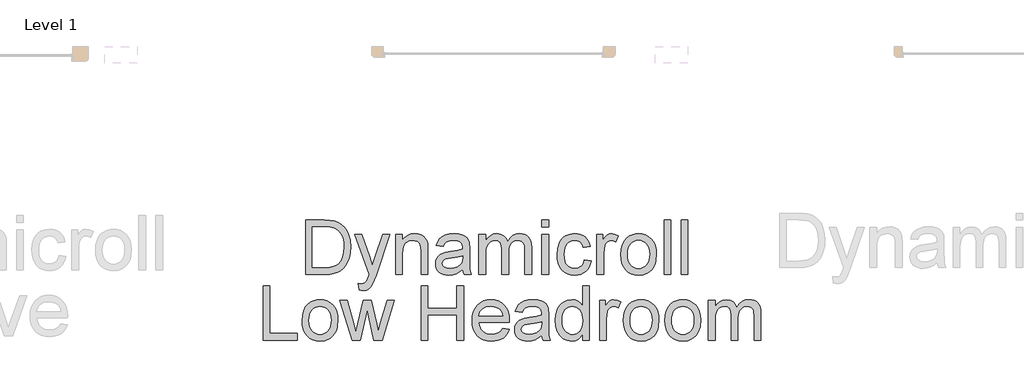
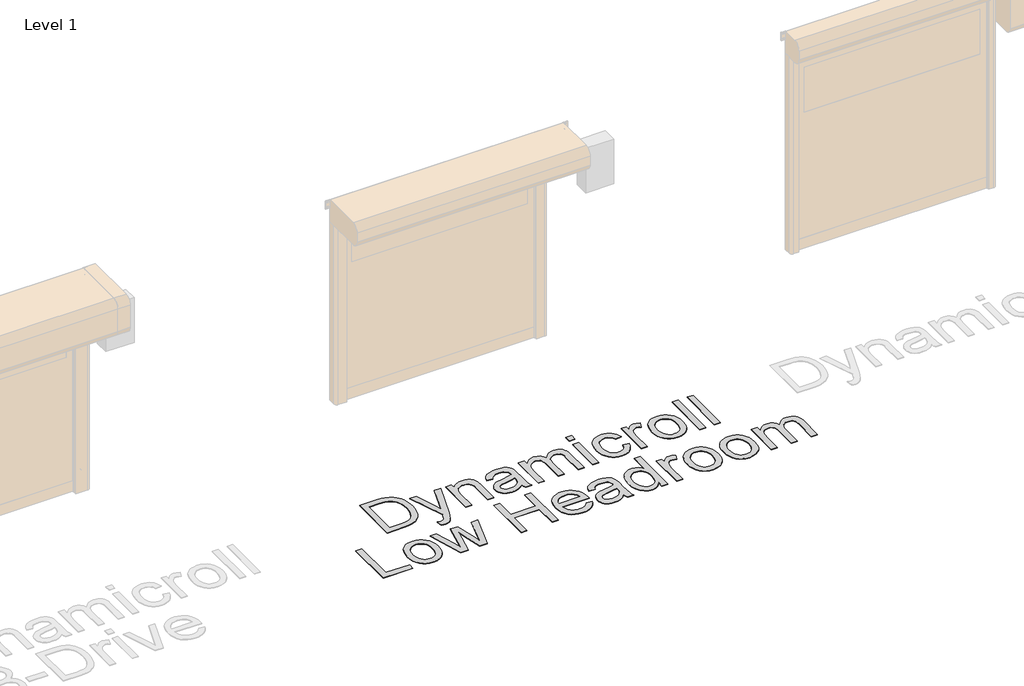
# One storey, part 9 of 20: 1 proxy.
"""IFC4 building model written with IfcOpenShell, lengths in millimetres."""

import ifcopenshell
import ifcopenshell.guid

model = None  # the IFC model being written
_history = None  # IfcOwnerHistory: only IFC2X3 demands one
_inside = {}  # id of a spatial element -> (the spatial element, [elements in it])
_under = {}  # id of a project, library or spatial element -> (it, [spatial elements below it])
_declared = {}  # id of a project -> (the project, [libraries it declares])
_typed = {}  # id of a type object -> (the type object, [elements of that type])
_made_of = {}  # id of a material, layer set ... -> (it, [elements and type objects made of it])


def new_model(schema):
    """Start an empty IFC model of exactly this schema.

    Asked for "IFC4X3", IfcOpenShell would pick the latest addendum, in which some entities
    have other attributes; the version numbers below select the first issue.
    IFC2X3 requires an IfcOwnerHistory on every rooted entity: one is made here for all.
    """
    global model, _history
    if schema == "IFC4X3":
        model = ifcopenshell.file(schema_version=(4, 3, 0, 0))
    else:
        model = ifcopenshell.file(schema=schema)
    _inside.clear()
    _under.clear()
    _declared.clear()
    _typed.clear()
    _made_of.clear()
    _history = None
    if model.schema == "IFC2X3":
        org = make("IfcOrganization", Name="unknown")
        user = make(
            "IfcPersonAndOrganization",
            ThePerson=make("IfcPerson", FamilyName="unknown"),
            TheOrganization=org,
        )
        app = make(
            "IfcApplication",
            ApplicationDeveloper=org,
            Version="unknown",
            ApplicationFullName="unknown",
            ApplicationIdentifier="unknown",
        )
        _history = make(
            "IfcOwnerHistory",
            OwningUser=user,
            OwningApplication=app,
            ChangeAction="ADDED",
            CreationDate=0,
        )
    return model


def make(cls, **values):
    """One entity of the class cls with the attributes given. An attribute that is None is left unset."""
    return model.create_entity(
        cls, **{name: value for name, value in values.items() if value is not None}
    )


def rooted(cls, **values):
    """An entity with a GlobalId (a new one), such as an element, a storey or a relation."""
    return make(cls, GlobalId=ifcopenshell.guid.new(), OwnerHistory=_history, **values)


def si_unit(unit_type, name, prefix=None):
    """IfcSIUnit, for example si_unit("LENGTHUNIT", "METRE", prefix="MILLI")."""
    return make("IfcSIUnit", UnitType=unit_type, Prefix=prefix, Name=name)


def assignment(units):
    """IfcUnitAssignment: the units of a project."""
    return None if units is None else make("IfcUnitAssignment", Units=units)


def point(xyz):
    """IfcCartesianPoint."""
    return None if xyz is None else make("IfcCartesianPoint", Coordinates=xyz)


def direction(xyz):
    """IfcDirection."""
    return None if xyz is None else make("IfcDirection", DirectionRatios=xyz)


def frame(location, z_axis=None, x_axis=None):
    """IfcAxis2Placement3D, a coordinate frame: its origin and axes. An axis left out is left unset."""
    return make(
        "IfcAxis2Placement3D",
        Location=point(location),
        Axis=direction(z_axis),
        RefDirection=direction(x_axis),
    )


def origin():
    """The frame at (0, 0, 0) with its axes left unset."""
    return frame((0.0, 0.0, 0.0))


def origin_with_axes():
    """The frame at (0, 0, 0) with the z axis (0, 0, 1) and the x axis (1, 0, 0) written out."""
    return frame((0.0, 0.0, 0.0), z_axis=(0.0, 0.0, 1.0), x_axis=(1.0, 0.0, 0.0))


def place(relative_to, where):
    """IfcLocalPlacement: puts the frame where relative to a parent placement (None: the world)."""
    return make(
        "IfcLocalPlacement", PlacementRelTo=relative_to, RelativePlacement=where
    )


def context(
    kind, dimensions, precision=None, world=None, true_north=None, identifier=None
):
    """IfcGeometricRepresentationContext, for example the 3D "Model" context."""
    return make(
        "IfcGeometricRepresentationContext",
        ContextIdentifier=identifier,
        ContextType=kind,
        CoordinateSpaceDimension=dimensions,
        Precision=precision,
        WorldCoordinateSystem=world,
        TrueNorth=true_north,
    )


def project(units=None, contexts=None):
    """IfcProject with its units and contexts."""
    return rooted(
        "IfcProject",
        Name="project",
        RepresentationContexts=contexts,
        UnitsInContext=assignment(units),
    )


def spatial(cls, under=None, at=None, **own):
    """A site, building, storey or space (cls), placed at a placement, below another one or the project."""
    s = rooted(cls, ObjectPlacement=at, **own)
    if under is not None:
        _under.setdefault(under.id(), (under, []))[1].append(s)
    return s


def polyline(points):
    """IfcPolyline through the points."""
    return make("IfcPolyline", Points=[point(p) for p in points])


def outline(outer, holes=None, kind="AREA"):
    """IfcArbitraryClosedProfileDef: a profile drawn as a closed curve; with holes, ...WithVoids."""
    if holes is None:
        return make("IfcArbitraryClosedProfileDef", ProfileType=kind, OuterCurve=outer)
    return make(
        "IfcArbitraryProfileDefWithVoids",
        ProfileType=kind,
        OuterCurve=outer,
        InnerCurves=holes,
    )


def extrude(swept, where, along, depth):
    """IfcExtrudedAreaSolid: the profile swept, set in the frame where, extruded along a direction by depth."""
    return make(
        "IfcExtrudedAreaSolid",
        SweptArea=swept,
        Position=where,
        ExtrudedDirection=direction(along),
        Depth=depth,
    )


def shape(context_of_items, identifier, shape_type, items):
    """IfcShapeRepresentation: the items that make up one representation, for example the "Body"."""
    return make(
        "IfcShapeRepresentation",
        ContextOfItems=context_of_items,
        RepresentationIdentifier=identifier,
        RepresentationType=shape_type,
        Items=items,
    )


def made_of(thing, what):
    """Note that an element or type object is made of a material, layer set ...; save() writes the relation."""
    if what is not None:
        _made_of.setdefault(what.id(), (what, []))[1].append(thing)
    return thing


def element(
    cls,
    number,
    at=None,
    inside=None,
    cuts=None,
    type_object=None,
    material=None,
    context=None,
    identifier="Body",
    shape_type=None,
    held_by="IfcProductDefinitionShape",
    body=None,
    shapes=None,
    **own,
):
    """One element of the class cls, such as IfcWall. Its Tag is "e" and its number.

    at: its placement. inside: the storey or other place that contains it. cuts: it is an
    opening in that element (IfcRelVoidsElement). A single representation is given by context,
    identifier, shape_type and body (its items); several are given by shapes. held_by: the class
    of the entity that holds the representations. save() writes the other relations.
    """
    e = rooted(cls, Tag="e%d" % number, ObjectPlacement=at, **own)
    if body is not None:
        shapes = [shape(context, identifier, shape_type, body)]
    if shapes is not None:
        e.Representation = make(held_by, Representations=shapes)
    if inside is not None:
        _inside.setdefault(inside.id(), (inside, []))[1].append(e)
    if cuts is not None:
        rooted(
            "IfcRelVoidsElement", RelatingBuildingElement=cuts, RelatedOpeningElement=e
        )
    if type_object is not None:
        _typed.setdefault(type_object.id(), (type_object, []))[1].append(e)
    return made_of(e, material)


def aggregate(whole, parts):
    """IfcRelAggregates: a whole, such as a stair, and the parts it consists of."""
    return rooted("IfcRelAggregates", RelatingObject=whole, RelatedObjects=parts)


def save(model, path):
    """Write the relations noted so far, then the file.

    IfcRelAggregates (storeys below a building ...), IfcRelContainedInSpatialStructure (elements
    in a storey), IfcRelDefinesByType, IfcRelAssociatesMaterial and IfcRelDeclares: one each for
    every whole, place, type object, material and project.
    """
    for whole, parts in _under.values():
        aggregate(whole, parts)
    for where, things in _inside.values():
        rooted(
            "IfcRelContainedInSpatialStructure",
            RelatedElements=things,
            RelatingStructure=where,
        )
    for kind, things in _typed.values():
        rooted("IfcRelDefinesByType", RelatedObjects=things, RelatingType=kind)
    for what, things in _made_of.values():
        rooted("IfcRelAssociatesMaterial", RelatedObjects=things, RelatingMaterial=what)
    for by, libraries in _declared.values():
        rooted("IfcRelDeclares", RelatingContext=by, RelatedDefinitions=libraries)
    model.write(path)


model = new_model("IFC4")

# Units and contexts
model_context = context("Model", 3, world=origin())
ifc_project = project(units=[si_unit("LENGTHUNIT", "METRE", prefix="MILLI")], contexts=[model_context])

# Site, building, storey
site = spatial("IfcSite", under=ifc_project)
building = spatial("IfcBuilding", under=site)
storey = spatial("IfcBuildingStorey", under=building, Name="Level 1", Elevation=0.0)

# Proxy
placement = place(None, origin())
element("IfcBuildingElementProxy", 1, Name="500mm", ObjectType="500mm", at=placement, inside=storey, context=model_context, shape_type="SweptSolid", body=[
    extrude(outline(polyline([(10253.8603048, 30354.3905971), (10253.8603048, 30856.6721479), (10427.1327245, 30856.6721479), (10478.9121153, 30854.8633947), (10516.773304, 30849.4371353), (10556.8111278, 30835.4882763), (10590.5949577, 30813.5073271), (10609.2113195, 30795.542423), (10625.3291494, 30775.2475996), (10638.9484474, 30752.6228569), (10650.0692136, 30727.6681949), (10664.8764639, 30671.688818), (10669.812214, 30608.2291738), (10666.4706192, 30554.3191331), (10656.4458348, 30506.8776841), (10641.178732, 30466.4873067), (10622.1101819, 30433.7304807), (10600.1598896, 30407.8714422), (10576.2475599, 30388.174427), (10548.794366, 30373.5664461), (10516.221481, 30362.9745103), (10478.4675912, 30356.5365754), (10435.4713831, 30354.3905971), (10253.8603048, 30354.3905971)]), holes=[polyline([(10316.6454986, 30417.175791), (10427.7458612, 30417.175791), (10473.7004537, 30419.4443966), (10508.5572728, 30426.2502135), (10534.8608354, 30437.1947029), (10555.1556588, 30451.8793258), (10576.9679955, 30479.0566082), (10593.3540727, 30514.235324), (10603.6087833, 30557.5687574), (10607.0270201, 30609.2101924), (10605.3523906, 30645.6611668), (10600.3285022, 30677.6362436), (10591.9553547, 30705.1354227), (10580.2329482, 30728.1587042), (10566.1116445, 30747.2272543), (10550.5418055, 30762.8622391), (10533.5234311, 30775.0636586), (10515.0565214, 30783.8315128), (10478.9427722, 30791.3730937), (10426.0290785, 30793.886954), (10316.6454986, 30793.886954), (10316.6454986, 30417.175791)])]), origin_with_axes(), (0.0, 0.0, 1.0), 5.0),
    extrude(outline(polyline([(10748.2937063, 30213.123911), (10740.4455571, 30273.5791855), (10772.3286633, 30268.0609556), (10789.0979509, 30269.7930666), (10802.1271049, 30274.9893998), (10812.2745166, 30283.2820731), (10820.3985773, 30294.3032046), (10837.5664038, 30340.5337086), (10842.4714971, 30355.7394978), (10709.0529601, 30723.253611), (10775.2717193, 30723.253611), (10846.0276897, 30518.465967), (10870.6757834, 30436.5509094), (10895.323877, 30508.9010351), (10968.0418847, 30723.253611), (11033.7701346, 30723.253611), (10905.3793182, 30345.5614292), (10872.024684, 30263.6463716), (10854.9488281, 30237.4960932), (10835.6043665, 30219.3779049), (10813.1329079, 30208.8012975), (10786.6760611, 30205.2757617), (10768.4965592, 30207.2377991), (10748.2937063, 30213.123911)])), origin_with_axes(), (0.0, 0.0, 1.0), 5.0),
    extrude(outline(polyline([(11085.7641232, 30354.3905971), (11085.7641232, 30723.253611), (11148.549317, 30723.253611), (11148.549317, 30671.7501316), (11170.3616537, 30697.7164691), (11196.5579174, 30716.263853), (11227.1381083, 30727.3922834), (11262.1022262, 30731.1017602), (11293.0502991, 30728.112719), (11321.3925411, 30719.1455953), (11345.0289593, 30705.3193637), (11361.8595606, 30687.7529984), (11373.2792309, 30666.4924848), (11380.682856, 30641.583808), (11383.993794, 30580.8832788), (11383.993794, 30354.3905971), (11321.2086001, 30354.3905971), (11321.2086001, 30572.4219929), (11319.399847, 30604.887579), (11313.9735875, 30627.9721742), (11303.9641316, 30644.5115356), (11288.4057889, 30657.3414202), (11268.4635191, 30665.5727798), (11245.3022818, 30668.3165663), (11226.2375638, 30666.7760605), (11208.5294107, 30662.1545429), (11192.1778224, 30654.4520136), (11177.182799, 30643.6684727), (11164.6556506, 30628.5776467), (11155.7076875, 30607.9532623), (11150.3389097, 30581.7953196), (11148.549317, 30550.1038186), (11148.549317, 30354.3905971), (11085.7641232, 30354.3905971)])), origin_with_axes(), (0.0, 0.0, 1.0), 5.0),
    extrude(outline(polyline([(11705.7679124, 30401.4794925), (11675.7702014, 30375.7584097), (11644.8834422, 30358.9278084), (11612.4025277, 30349.638788), (11577.6223508, 30346.5424479), (11549.6671512, 30348.4048505), (11525.1531812, 30353.9920583), (11504.0804407, 30363.3040713), (11486.4489296, 30376.3408895), (11472.5268954, 30392.2747784), (11462.5825852, 30410.2780036), (11456.6159991, 30430.3505649), (11454.627137, 30452.4924625), (11457.6315067, 30478.5201137), (11466.6446155, 30502.1565319), (11480.5474893, 30522.3900416), (11498.2211535, 30538.2089674), (11518.9911578, 30550.1651322), (11542.1830519, 30558.8103591), (11596.5069598, 30568.2526637), (11660.702368, 30578.1854775), (11705.4000304, 30589.835074), (11705.7679124, 30603.8145899), (11701.445299, 30631.8349352), (11688.4774586, 30650.1677212), (11675.4023194, 30658.107841), (11659.4760947, 30663.7793551), (11619.0703889, 30668.3165663), (11581.6690527, 30665.2968683), (11555.549431, 30656.2377742), (11537.7378111, 30639.483815), (11525.2604801, 30613.3795217), (11462.4752863, 30621.227671), (11473.3737904, 30655.5633238), (11489.6372402, 30682.5413368), (11512.7831491, 30703.1733854), (11544.3290302, 30718.471145), (11582.9106544, 30727.9441064), (11627.1637928, 30731.1017602), (11669.608178, 30728.3119884), (11703.2540521, 30719.942673), (11728.6225814, 30707.3580431), (11746.2349319, 30691.9223277), (11757.9151852, 30672.8384492), (11765.487423, 30649.3093299), (11768.5531063, 30594.3722853), (11768.5531063, 30516.258675), (11771.7414169, 30407.1816634), (11776.4625691, 30380.2189789), (11784.2494047, 30354.3905971), (11721.4642109, 30354.3905971), (11711.4087697, 30376.2182622), (11705.7679124, 30401.4794925)]), holes=[polyline([(11705.7679124, 30527.0498802), (11663.5841103, 30516.5959002), (11604.4777364, 30507.7973891), (11550.4603968, 30497.6193206), (11536.4042389, 30490.6602195), (11525.9962441, 30481.0646308), (11519.5583092, 30469.5683184), (11517.4123309, 30456.9070464), (11522.0874979, 30438.2370352), (11536.112999, 30422.9392756), (11559.1822657, 30412.7305502), (11590.9887299, 30409.3276417), (11624.7112461, 30413.0831038), (11654.5096877, 30424.3494899), (11678.6672721, 30440.9501649), (11695.4672165, 30460.7084937), (11702.9168269, 30481.0646308), (11705.4000304, 30509.2689171), (11705.7679124, 30527.0498802)])]), origin_with_axes(), (0.0, 0.0, 1.0), 5.0),
    extrude(outline(polyline([(11854.8827478, 30354.3905971), (11854.8827478, 30723.253611), (11917.6679416, 30723.253611), (11917.6679416, 30662.5530817), (11936.5525507, 30690.4354713), (11960.8327624, 30712.2784648), (11989.6808422, 30726.3959363), (12022.2690556, 30731.1017602), (12057.1871883, 30726.3039658), (12085.1768768, 30711.9105828), (12106.0848368, 30688.8719728), (12119.7577843, 30658.1384978), (12142.6431101, 30690.0599251), (12168.7474033, 30712.8609446), (12198.070664, 30726.5415563), (12230.6128922, 30731.1017602), (12255.7476631, 30729.2048686), (12277.8090865, 30723.514194), (12296.7971624, 30714.0297363), (12312.7118908, 30700.7514956), (12325.2926886, 30683.5261876), (12334.2789728, 30662.2005282), (12339.6707432, 30636.7745174), (12341.4680001, 30607.2481551), (12341.4680001, 30354.3905971), (12278.6828062, 30354.3905971), (12278.6828062, 30580.2701422), (12277.2266067, 30611.586097), (12272.858008, 30632.6933265), (12264.6726336, 30647.1480232), (12251.7661069, 30658.5063798), (12235.1654319, 30665.8640197), (12215.8976124, 30668.3165663), (12198.105153, 30666.7454037), (12181.8838562, 30662.0319156), (12167.2337222, 30654.1761022), (12154.1547509, 30643.1779633), (12143.3980346, 30628.7156024), (12135.7146659, 30610.4671226), (12131.1046446, 30588.4325239), (12129.5679709, 30562.6118064), (12129.5679709, 30354.3905971), (12066.782777, 30354.3905971), (12066.782777, 30587.2599001), (12063.1499423, 30622.7605126), (12052.2514382, 30648.0830566), (12043.8246412, 30656.9352171), (12033.0755892, 30663.2581889), (12004.6107198, 30668.3165663), (11980.4224786, 30664.9443147), (11958.1349611, 30654.8275599), (11939.7408613, 30638.2115564), (11927.2328735, 30615.341559), (11920.0591746, 30583.611737), (11917.6679416, 30540.4162594), (11917.6679416, 30354.3905971), (11854.8827478, 30354.3905971)])), origin_with_axes(), (0.0, 0.0, 1.0), 5.0),
    extrude(outline(polyline([(12435.6457908, 30793.886954), (12435.6457908, 30856.6721479), (12498.4309847, 30856.6721479), (12498.4309847, 30793.886954), (12435.6457908, 30793.886954)])), origin_with_axes(), (0.0, 0.0, 1.0), 5.0),
    extrude(outline(polyline([(12435.6457908, 30354.3905971), (12435.6457908, 30723.253611), (12498.4309847, 30723.253611), (12498.4309847, 30354.3905971), (12435.6457908, 30354.3905971)])), origin_with_axes(), (0.0, 0.0, 1.0), 5.0),
    extrude(outline(polyline([(12828.0532524, 30487.809134), (12890.8384462, 30479.9609848), (12884.0096367, 30450.3349879), (12873.3333946, 30424.1195636), (12858.80972, 30401.314712), (12840.4386129, 30381.9204331), (12818.9941582, 30366.4425646), (12795.2504411, 30355.3869442), (12769.2074615, 30348.753572), (12740.8652195, 30346.5424479), (12705.6520148, 30349.6272917), (12674.079309, 30358.8818231), (12646.1471021, 30374.3060422), (12621.8553941, 30395.8999489), (12602.1928678, 30423.2573402), (12588.1482063, 30455.972013), (12579.7214093, 30494.0439674), (12576.912477, 30537.4732034), (12581.7102713, 30593.3452814), (12596.1036544, 30641.767749), (12606.9561733, 30662.7178622), (12620.3225524, 30680.8705394), (12636.2027919, 30696.2257806), (12654.5968916, 30708.7835858), (12695.6004057, 30725.5222166), (12740.0068282, 30731.1017602), (12767.862393, 30729.1857081), (12793.0584776, 30723.437552), (12815.5950819, 30713.8572917), (12835.4722059, 30700.4449273), (12852.3526246, 30683.5070271), (12865.8991126, 30663.3501594), (12876.1116701, 30639.9743243), (12882.990297, 30613.3795217), (12820.2051031, 30605.5313725), (12808.8160897, 30632.9232527), (12791.0811118, 30652.5589542), (12767.9811882, 30664.3771633), (12740.4973375, 30668.3165663), (12719.1640139, 30666.3775217), (12699.9230191, 30660.5603876), (12682.7743532, 30650.8651642), (12667.7180161, 30637.2918514), (12655.4591151, 30619.5262167), (12646.7027572, 30597.2540276), (12641.4489424, 30570.475284), (12639.6976708, 30539.189986), (12641.4106214, 30507.4333392), (12646.549473, 30480.3441952), (12655.1142257, 30457.922554), (12667.1048795, 30440.1684157), (12681.8623124, 30426.6755771), (12698.7274026, 30417.0378352), (12717.7001501, 30411.2551901), (12738.7805549, 30409.3276417), (12771.2921262, 30414.1407645), (12797.9482424, 30428.5801328), (12808.7279513, 30439.5016295), (12817.3386893, 30453.0136287), (12828.0532524, 30487.809134)])), origin_with_axes(), (0.0, 0.0, 1.0), 5.0),
    extrude(outline(polyline([(12945.7754908, 30354.3905971), (12945.7754908, 30723.253611), (13000.7125354, 30723.253611), (13000.7125354, 30668.6844483), (13021.0073588, 30700.3222999), (13039.7080269, 30718.9616543), (13058.4700087, 30728.0667337), (13078.9487731, 30731.1017602), (13110.2187427, 30726.2579806), (13141.9792216, 30711.7266418), (13121.0099479, 30655.4406965), (13098.9370281, 30665.0975989), (13076.8641084, 30668.3165663), (13058.1174551, 30665.2202262), (13041.3634959, 30655.9312058), (13027.8285042, 30641.1546124), (13018.7387532, 30621.595553), (13011.1052018, 30586.5241361), (13008.5606847, 30548.2644086), (13008.5606847, 30354.3905971), (12945.7754908, 30354.3905971)])), origin_with_axes(), (0.0, 0.0, 1.0), 5.0),
    extrude(outline(polyline([(13165.5236693, 30538.822104), (13168.9189135, 30586.593114), (13179.1046463, 30627.7575764), (13196.0808675, 30662.3154913), (13219.8475772, 30690.2668587), (13243.7752353, 30708.1321281), (13270.1860969, 30720.8930348), (13299.0801619, 30728.5495788), (13330.4574304, 30731.1017602), (13365.0958195, 30727.9939237), (13396.4156065, 30718.6704144), (13424.4167913, 30703.1312322), (13449.0993739, 30681.3763772), (13469.2447452, 30654.1416132), (13483.6342962, 30622.1627044), (13492.2680268, 30585.4396506), (13495.1459369, 30543.972452), (13490.0569027, 30480.5434646), (13483.6956098, 30454.5081493), (13474.7897999, 30432.2589528), (13463.4506038, 30413.0409506), (13449.7891526, 30396.0992183), (13433.8054464, 30381.4337559), (13415.499485, 30369.0445633), (13374.7718824, 30352.1679767), (13330.4574304, 30346.5424479), (13295.3132036, 30349.638788), (13263.7021767, 30358.9278084), (13235.6243499, 30374.409509), (13211.079723, 30396.0838899), (13191.1489495, 30423.583069), (13176.9126827, 30456.5391644), (13168.3709226, 30494.9521761), (13165.5236693, 30538.822104)]), holes=[polyline([(13228.3088631, 30538.9447314), (13230.1252805, 30508.491), (13235.5745325, 30482.1222915), (13244.6566193, 30459.8386061), (13257.3715407, 30441.6399436), (13272.8379129, 30427.5033116), (13290.174352, 30417.4057172), (13309.3808578, 30411.3471606), (13330.4574304, 30409.3276417), (13351.4267042, 30411.3586569), (13370.5565679, 30417.4517025), (13387.8470217, 30427.6067784), (13403.2980655, 30441.8238846), (13416.0129869, 30460.202656), (13425.0950737, 30482.8427271), (13430.5443258, 30509.744098), (13432.3607431, 30540.9067687), (13430.5328294, 30570.3948099), (13425.0490885, 30596.0737395), (13415.9095201, 30617.9435577), (13403.1141245, 30636.0042644), (13387.6055991, 30650.1408965), (13370.3266417, 30660.2384909), (13351.2772521, 30666.2970475), (13330.4574304, 30668.3165663), (13309.3808578, 30666.3047117), (13290.174352, 30660.2691477), (13272.8379129, 30650.2098744), (13257.3715407, 30636.1268918), (13244.6566193, 30617.9818788), (13235.5745325, 30595.7365144), (13230.1252805, 30569.3907986), (13228.3088631, 30538.9447314)])]), origin_with_axes(), (0.0, 0.0, 1.0), 5.0),
    extrude(outline(polyline([(13565.77928, 30354.3905971), (13565.77928, 30856.6721479), (13628.5644739, 30856.6721479), (13628.5644739, 30354.3905971), (13565.77928, 30354.3905971)])), origin_with_axes(), (0.0, 0.0, 1.0), 5.0),
    extrude(outline(polyline([(13722.7422646, 30354.3905971), (13722.7422646, 30856.6721479), (13785.5274585, 30856.6721479), (13785.5274585, 30354.3905971), (13722.7422646, 30354.3905971)])), origin_with_axes(), (0.0, 0.0, 1.0), 5.0),
    extrude(outline(polyline([(9861.4528433, 29744.5165079), (9861.4528433, 30246.7980586), (9924.2380371, 30246.7980586), (9924.2380371, 29807.3017017), (10175.3788125, 29807.3017017), (10175.3788125, 29744.5165079), (9861.4528433, 29744.5165079)])), origin_with_axes(), (0.0, 0.0, 1.0), 5.0),
    extrude(outline(polyline([(10222.4677079, 29928.9480148), (10225.8629521, 29976.7190247), (10236.0486848, 30017.8834871), (10253.0249061, 30052.4414021), (10276.7916158, 30080.3927695), (10300.7192739, 30098.2580389), (10327.1301355, 30111.0189456), (10356.0242005, 30118.6754896), (10387.401469, 30121.227671), (10422.0398581, 30118.1198345), (10453.3596451, 30108.7963252), (10481.3608299, 30093.257143), (10506.0434125, 30071.5022879), (10526.1887838, 30044.267524), (10540.5783348, 30012.2886151), (10549.2120653, 29975.5655614), (10552.0899755, 29934.0983627), (10547.0009413, 29870.6693754), (10540.6396484, 29844.63406), (10531.7338385, 29822.3848635), (10520.3946424, 29803.1668614), (10506.7331912, 29786.2251291), (10490.7494849, 29771.5596666), (10472.4435236, 29759.170474), (10431.715921, 29742.2938875), (10387.401469, 29736.6683587), (10352.2572422, 29739.7646988), (10320.6462153, 29749.0537192), (10292.5683885, 29764.5354198), (10268.0237616, 29786.2098007), (10248.0929881, 29813.7089798), (10233.8567213, 29846.6650752), (10225.3149612, 29885.0780869), (10222.4677079, 29928.9480148)]), holes=[polyline([(10285.2529017, 29929.0706421), (10287.0693191, 29898.6169107), (10292.5185711, 29872.2482023), (10301.6006579, 29849.9645169), (10314.3155793, 29831.7658544), (10329.7819515, 29817.6292223), (10347.1183906, 29807.531628), (10366.3248964, 29801.4730714), (10387.401469, 29799.4535525), (10408.3707428, 29801.4845677), (10427.5006065, 29807.5776132), (10444.7910603, 29817.7326891), (10460.2421041, 29831.9497954), (10472.9570255, 29850.3285668), (10482.0391123, 29872.9686379), (10487.4883643, 29899.8700088), (10489.3047817, 29931.0326795), (10487.476868, 29960.5207206), (10481.993127, 29986.1996503), (10472.8535587, 30008.0694685), (10460.0581631, 30026.1301752), (10444.5496377, 30040.2668073), (10427.2706803, 30050.3644016), (10408.2212907, 30056.4229582), (10387.401469, 30058.4424771), (10366.3248964, 30056.4306225), (10347.1183906, 30050.3950585), (10329.7819515, 30040.3357852), (10314.3155793, 30026.2528025), (10301.6006579, 30008.1077895), (10292.5185711, 29985.8624251), (10287.0693191, 29959.5167093), (10285.2529017, 29929.0706421)])]), origin_with_axes(), (0.0, 0.0, 1.0), 5.0),
    extrude(outline(polyline([(10683.9143571, 29744.5165079), (10571.7103486, 30113.3795217), (10636.9480891, 30113.3795217), (10700.5916743, 29898.1685545), (10719.5989107, 29821.2812176), (10735.1725818, 29895.3481259), (10785.8176698, 30113.3795217), (10860.6203422, 30113.3795217), (10911.0201755, 29895.9612626), (10924.877064, 29828.8841121), (10944.7426917, 29899.6400825), (11008.5089042, 30113.3795217), (11073.9918994, 30113.3795217), (10960.9294995, 29744.5165079), (10885.0231812, 29744.5165079), (10836.8306398, 29960.8311211), (10822.851124, 30028.2761535), (10760.6790668, 29744.5165079), (10683.9143571, 29744.5165079)])), origin_with_axes(), (0.0, 0.0, 1.0), 5.0),
    extrude(outline(polyline([(11321.2086001, 29744.5165079), (11321.2086001, 30246.7980586), (11383.993794, 30246.7980586), (11383.993794, 30042.7461787), (11650.8308678, 30042.7461787), (11650.8308678, 30246.7980586), (11713.6160616, 30246.7980586), (11713.6160616, 29744.5165079), (11650.8308678, 29744.5165079), (11650.8308678, 29979.9609848), (11383.993794, 29979.9609848), (11383.993794, 29744.5165079), (11321.2086001, 29744.5165079)])), origin_with_axes(), (0.0, 0.0, 1.0), 5.0),
    extrude(outline(polyline([(12073.8951622, 29854.3905971), (12135.4540828, 29846.5424479), (12126.0156103, 29821.88669), (12113.2738641, 29800.1586597), (12097.2288442, 29781.3583569), (12077.8805505, 29765.4857816), (12055.4282525, 29752.8781591), (12030.0712196, 29743.8727144), (12001.8094517, 29738.4694476), (11970.6429489, 29736.6683587), (11931.6857785, 29739.7761951), (11896.9745794, 29749.0997044), (11866.5093517, 29764.6388866), (11840.2900953, 29786.3937417), (11819.2058585, 29813.7587972), (11804.1456893, 29846.1285806), (11795.1095878, 29883.5030921), (11792.0975539, 29925.8823315), (11795.1402446, 29969.69861), (11804.2683166, 30008.3185553), (11819.48177, 30041.7421674), (11840.7806046, 30069.9694463), (11866.9308831, 30092.3949196), (11896.6986679, 30108.4131148), (11930.083959, 30118.0240319), (11967.0867563, 30121.227671), (12002.8977693, 30118.0316961), (12035.2828812, 30108.4437716), (12064.242092, 30092.4638975), (12089.7754017, 30070.0920736), (12110.618216, 30041.9261084), (12125.5059405, 30008.5638099), (12134.4385752, 29970.0051783), (12137.4161201, 29926.2502135), (12137.0482381, 29909.3276417), (11854.8827478, 29909.3276417), (11858.5194146, 29884.273345), (11865.7505951, 29862.3307169), (11876.5762892, 29843.4997572), (11890.996497, 29827.7804661), (11908.2141408, 29815.3874414), (11927.4321429, 29806.5352809), (11948.6505034, 29801.2239846), (11971.8692223, 29799.4535525), (12005.2851701, 29802.7338336), (12033.4281428, 29812.574677), (12056.2981401, 29829.5892193), (12073.8951622, 29854.3905971)]), holes=[polyline([(11854.8827478, 29972.1128356), (12074.6309262, 29972.1128356), (12066.1389835, 30005.2835288), (12049.4923232, 30029.0119175), (12032.370482, 30041.8877873), (12012.8880647, 30051.0848372), (11991.0450713, 30056.6030671), (11966.8415017, 30058.4424771), (11924.5197438, 30052.5716936), (11906.1064835, 30045.2332142), (11889.524969, 30034.9593431), (11875.610599, 30022.2252611), (11865.1987721, 30007.5061492), (11858.2894883, 29990.8020074), (11854.8827478, 29972.1128356)])]), origin_with_axes(), (0.0, 0.0, 1.0), 5.0),
    extrude(outline(polyline([(12435.6457908, 29791.6054033), (12405.6480798, 29765.8843204), (12374.7613206, 29749.0537192), (12342.2804061, 29739.7646988), (12307.5002292, 29736.6683587), (12279.5450297, 29738.5307613), (12255.0310596, 29744.1179691), (12233.9583191, 29753.4299821), (12216.326808, 29766.4668003), (12202.4047738, 29782.4006892), (12192.4604636, 29800.4039143), (12186.4938775, 29820.4764757), (12184.5050155, 29842.6183733), (12187.5093851, 29868.6460244), (12196.522494, 29892.2824426), (12210.4253677, 29912.5159524), (12228.0990319, 29928.3348782), (12248.8690362, 29940.291043), (12272.0609303, 29948.9362699), (12326.3848383, 29958.3785744), (12390.5802464, 29968.3113883), (12435.2779088, 29979.9609848), (12435.6457908, 29993.9405006), (12431.3231774, 30021.9608459), (12418.3553371, 30040.293632), (12405.2801978, 30048.2337517), (12389.3539731, 30053.9052658), (12348.9482673, 30058.4424771), (12311.5469311, 30055.4227791), (12285.4273095, 30046.3636849), (12267.6156895, 30029.6097257), (12255.1383585, 30003.5054325), (12192.3531647, 30011.3535817), (12203.2516688, 30045.6892346), (12219.5151187, 30072.6672476), (12242.6610275, 30093.2992962), (12274.2069086, 30108.5970558), (12312.7885329, 30118.0700172), (12357.0416712, 30121.227671), (12399.4860564, 30118.4378992), (12433.1319305, 30110.0685838), (12458.5004598, 30097.4839539), (12476.1128103, 30082.0482385), (12487.7930637, 30062.96436), (12495.3653014, 30039.4352407), (12498.4309847, 29984.4981961), (12498.4309847, 29906.3845858), (12501.6192953, 29797.3075742), (12506.3404476, 29770.3448896), (12514.1272831, 29744.5165079), (12451.3420893, 29744.5165079), (12441.2866481, 29766.3441729), (12435.6457908, 29791.6054033)]), holes=[polyline([(12435.6457908, 29917.175791), (12393.4619887, 29906.7218109), (12334.3556148, 29897.9232999), (12280.3382752, 29887.7452314), (12266.2821173, 29880.7861303), (12255.8741225, 29871.1905416), (12249.4361876, 29859.6942292), (12247.2902093, 29847.0329572), (12251.9653763, 29828.362946), (12265.9908774, 29813.0651863), (12289.0601442, 29802.856461), (12320.8666083, 29799.4535525), (12354.5891246, 29803.2090145), (12384.3875662, 29814.4754006), (12408.5451505, 29831.0760757), (12425.345095, 29850.8344045), (12432.7947054, 29871.1905416), (12435.2779088, 29899.3948279), (12435.6457908, 29917.175791)])]), origin_with_axes(), (0.0, 0.0, 1.0), 5.0),
    extrude(outline(polyline([(12812.3569539, 29744.5165079), (12812.3569539, 29803.7455091), (12793.5719795, 29774.3992558), (12770.8169453, 29753.4376463), (12744.0918512, 29740.8606806), (12713.3966972, 29736.6683587), (12672.8070504, 29742.7384116), (12635.6509689, 29760.9485703), (12604.1970583, 29790.0265764), (12580.7139243, 29828.7001711), (12566.090615, 29875.4058561), (12561.2161785, 29928.5801328), (12565.7074046, 29981.0952876), (12579.1810826, 30028.5214082), (12589.2825091, 30049.6516303), (12601.6218843, 30068.1606932), (12616.1992084, 30084.0485968), (12633.0144813, 30097.3153413), (12670.9829688, 30115.2495885), (12713.1514425, 30121.227671), (12743.8695891, 30116.9510428), (12771.0315431, 30104.1211582), (12794.0548246, 30084.4547999), (12812.3569539, 30059.6687504), (12812.3569539, 30246.7980586), (12875.1421477, 30246.7980586), (12875.1421477, 29744.5165079), (12812.3569539, 29744.5165079)]), holes=[polyline([(12624.0013724, 29928.8253875), (12625.7718045, 29898.3793203), (12631.0831008, 29872.0336045), (12639.9352613, 29849.7882401), (12652.328286, 29831.6432271), (12667.1278721, 29817.5602445), (12683.1997168, 29807.5009712), (12700.54382, 29801.4654072), (12719.1601818, 29799.4535525), (12737.864682, 29801.3734367), (12755.1053184, 29807.1330892), (12770.882091, 29816.73251), (12785.1949999, 29830.1716991), (12797.0783548, 29847.5579555), (12805.5664654, 29868.998578), (12810.6593318, 29894.4935667), (12812.3569539, 29924.0429215), (12810.6286749, 29956.4395297), (12805.4438381, 29984.2222846), (12796.8024433, 30007.3911861), (12784.7044906, 30025.9462342), (12770.0773492, 30040.1633405), (12753.8483883, 30050.3184164), (12736.0176078, 30056.4114619), (12716.5850078, 30058.4424771), (12697.600764, 30056.4919361), (12680.2566608, 30050.6403131), (12664.5526981, 30040.8876082), (12650.488876, 30027.2338212), (12638.9005932, 30009.3800481), (12630.6232483, 29987.0273848), (12625.6568413, 29960.1758313), (12624.0013724, 29928.8253875)])]), origin_with_axes(), (0.0, 0.0, 1.0), 5.0),
    extrude(outline(polyline([(12969.3199385, 29744.5165079), (12969.3199385, 30113.3795217), (13024.2569831, 30113.3795217), (13024.2569831, 30058.8103591), (13044.5518065, 30090.4482107), (13063.2524746, 30109.0875651), (13082.0144564, 30118.1926445), (13102.4932208, 30121.227671), (13133.7631904, 30116.3838914), (13165.5236693, 30101.8525525), (13144.5543955, 30045.5666073), (13122.4814758, 30055.2235097), (13100.4085561, 30058.4424771), (13081.6619028, 30055.346137), (13064.9079436, 30046.0571166), (13051.3729519, 30031.2805231), (13042.2832009, 30011.7214637), (13034.6496495, 29976.6500469), (13032.1051324, 29938.3903194), (13032.1051324, 29744.5165079), (12969.3199385, 29744.5165079)])), origin_with_axes(), (0.0, 0.0, 1.0), 5.0),
    extrude(outline(polyline([(13189.068117, 29928.9480148), (13192.4633612, 29976.7190247), (13202.649094, 30017.8834871), (13219.6253152, 30052.4414021), (13243.3920249, 30080.3927695), (13267.319683, 30098.2580389), (13293.7305446, 30111.0189456), (13322.6246096, 30118.6754896), (13354.0018781, 30121.227671), (13388.6402672, 30118.1198345), (13419.9600542, 30108.7963252), (13447.961239, 30093.257143), (13472.6438216, 30071.5022879), (13492.7891929, 30044.267524), (13507.1787439, 30012.2886151), (13515.8124744, 29975.5655614), (13518.6903846, 29934.0983627), (13513.6013504, 29870.6693754), (13507.2400575, 29844.63406), (13498.3342476, 29822.3848635), (13486.9950515, 29803.1668614), (13473.3336003, 29786.2251291), (13457.349894, 29771.5596666), (13439.0439327, 29759.170474), (13398.3163301, 29742.2938875), (13354.0018781, 29736.6683587), (13318.8576513, 29739.7646988), (13287.2466244, 29749.0537192), (13259.1687976, 29764.5354198), (13234.6241707, 29786.2098007), (13214.6933972, 29813.7089798), (13200.4571304, 29846.6650752), (13191.9153703, 29885.0780869), (13189.068117, 29928.9480148)]), holes=[polyline([(13251.8533108, 29929.0706421), (13253.6697282, 29898.6169107), (13259.1189802, 29872.2482023), (13268.201067, 29849.9645169), (13280.9159884, 29831.7658544), (13296.3823606, 29817.6292223), (13313.7187997, 29807.531628), (13332.9253055, 29801.4730714), (13354.0018781, 29799.4535525), (13374.9711519, 29801.4845677), (13394.1010156, 29807.5776132), (13411.3914694, 29817.7326891), (13426.8425132, 29831.9497954), (13439.5574346, 29850.3285668), (13448.6395214, 29872.9686379), (13454.0887734, 29899.8700088), (13455.9051908, 29931.0326795), (13454.0772771, 29960.5207206), (13448.5935361, 29986.1996503), (13439.4539678, 30008.0694685), (13426.6585722, 30026.1301752), (13411.1500468, 30040.2668073), (13393.8710894, 30050.3644016), (13374.8216998, 30056.4229582), (13354.0018781, 30058.4424771), (13332.9253055, 30056.4306225), (13313.7187997, 30050.3950585), (13296.3823606, 30040.3357852), (13280.9159884, 30026.2528025), (13268.201067, 30008.1077895), (13259.1189802, 29985.8624251), (13253.6697282, 29959.5167093), (13251.8533108, 29929.0706421)])]), origin_with_axes(), (0.0, 0.0, 1.0), 5.0),
    extrude(outline(polyline([(13573.6274293, 29928.9480148), (13577.0226735, 29976.7190247), (13587.2084062, 30017.8834871), (13604.1846275, 30052.4414021), (13627.9513372, 30080.3927695), (13651.8789953, 30098.2580389), (13678.2898569, 30111.0189456), (13707.1839219, 30118.6754896), (13738.5611904, 30121.227671), (13773.1995795, 30118.1198345), (13804.5193665, 30108.7963252), (13832.5205513, 30093.257143), (13857.2031339, 30071.5022879), (13877.3485052, 30044.267524), (13891.7380562, 30012.2886151), (13900.3717867, 29975.5655614), (13903.2496969, 29934.0983627), (13898.1606627, 29870.6693754), (13891.7993698, 29844.63406), (13882.8935599, 29822.3848635), (13871.5543638, 29803.1668614), (13857.8929126, 29786.2251291), (13841.9092063, 29771.5596666), (13823.603245, 29759.170474), (13782.8756424, 29742.2938875), (13738.5611904, 29736.6683587), (13703.4169636, 29739.7646988), (13671.8059367, 29749.0537192), (13643.7281099, 29764.5354198), (13619.183483, 29786.2098007), (13599.2527095, 29813.7089798), (13585.0164427, 29846.6650752), (13576.4746826, 29885.0780869), (13573.6274293, 29928.9480148)]), holes=[polyline([(13636.4126231, 29929.0706421), (13638.2290404, 29898.6169107), (13643.6782925, 29872.2482023), (13652.7603793, 29849.9645169), (13665.4753007, 29831.7658544), (13680.9416729, 29817.6292223), (13698.278112, 29807.531628), (13717.4846178, 29801.4730714), (13738.5611904, 29799.4535525), (13759.5304641, 29801.4845677), (13778.6603279, 29807.5776132), (13795.9507817, 29817.7326891), (13811.4018255, 29831.9497954), (13824.1167469, 29850.3285668), (13833.1988337, 29872.9686379), (13838.6480857, 29899.8700088), (13840.4645031, 29931.0326795), (13838.6365894, 29960.5207206), (13833.1528484, 29986.1996503), (13824.0132801, 30008.0694685), (13811.2178845, 30026.1301752), (13795.7093591, 30040.2668073), (13778.4304017, 30050.3644016), (13759.3810121, 30056.4229582), (13738.5611904, 30058.4424771), (13717.4846178, 30056.4306225), (13698.278112, 30050.3950585), (13680.9416729, 30040.3357852), (13665.4753007, 30026.2528025), (13652.7603793, 30008.1077895), (13643.6782925, 29985.8624251), (13638.2290404, 29959.5167093), (13636.4126231, 29929.0706421)])]), origin_with_axes(), (0.0, 0.0, 1.0), 5.0),
    extrude(outline(polyline([(13973.88304, 29744.5165079), (13973.88304, 30113.3795217), (14036.6682338, 30113.3795217), (14036.6682338, 30052.6789925), (14055.5528429, 30080.5613821), (14079.8330546, 30102.4043755), (14108.6811344, 30116.5218471), (14141.2693478, 30121.227671), (14176.1874805, 30116.4298766), (14204.177169, 30102.0364935), (14225.085129, 30078.9978836), (14238.7580765, 30048.2644086), (14261.6434023, 30080.1858359), (14287.7476956, 30102.9868554), (14317.0709563, 30116.6674671), (14349.6131844, 30121.227671), (14374.7479553, 30119.3307794), (14396.8093787, 30113.6401048), (14415.7974546, 30104.1556471), (14431.712183, 30090.8774064), (14444.2929808, 30073.6520984), (14453.279265, 30052.3264389), (14458.6710355, 30026.9004281), (14460.4682923, 29997.3740659), (14460.4682923, 29744.5165079), (14397.6830984, 29744.5165079), (14397.6830984, 29970.3960529), (14396.2268989, 30001.7120078), (14391.8583002, 30022.8192372), (14383.6729258, 30037.273934), (14370.7663991, 30048.6322906), (14354.1657241, 30055.9899305), (14334.8979046, 30058.4424771), (14317.1054452, 30056.8713144), (14300.8841485, 30052.1578264), (14286.2340144, 30044.3020129), (14273.1550431, 30033.3038741), (14262.3983268, 30018.8415132), (14254.7149581, 30000.5930334), (14250.1049368, 29978.5584347), (14248.5682631, 29952.7377172), (14248.5682631, 29744.5165079), (14185.7830692, 29744.5165079), (14185.7830692, 29977.3858108), (14182.1502345, 30012.8864234), (14171.2517304, 30038.2089674), (14162.8249335, 30047.0611279), (14152.0758814, 30053.3840997), (14123.611012, 30058.4424771), (14099.4227709, 30055.0702255), (14077.1352533, 30044.9534706), (14058.7411536, 30028.3374672), (14046.2331657, 30005.4674698), (14039.0594668, 29973.7376477), (14036.6682338, 29930.5421701), (14036.6682338, 29744.5165079), (13973.88304, 29744.5165079)])), origin_with_axes(), (0.0, 0.0, 1.0), 5.0),
])

save(model, "model.ifc")
